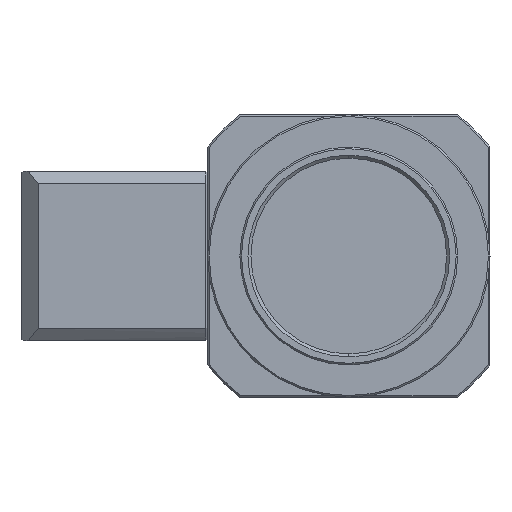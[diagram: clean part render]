
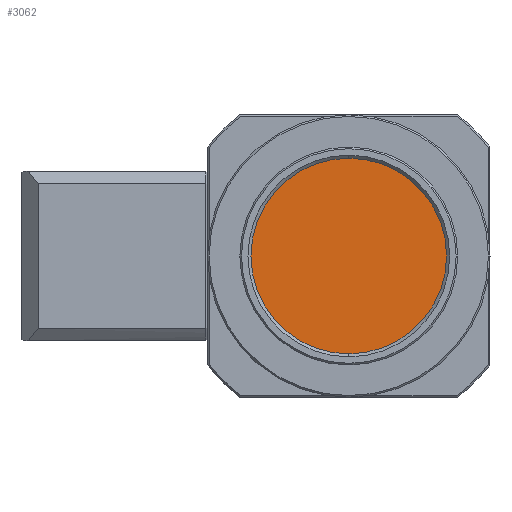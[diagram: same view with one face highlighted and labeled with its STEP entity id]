
A CAD part, left-side view. The second image highlights one B-rep face of the part: STEP entity #3062.
In plain terms, the highlighted planar face has unit normal (-1, 0, 0).
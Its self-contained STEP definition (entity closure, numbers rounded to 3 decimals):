
#75 = DIRECTION ( 'NONE',  ( 0., 0., -1. ) ) ;
#750 = CARTESIAN_POINT ( 'NONE',  ( -160., 0., 12.125 ) ) ;
#761 = VERTEX_POINT ( 'NONE', #4158 ) ;
#886 = FACE_OUTER_BOUND ( 'NONE', #4676, .T. ) ;
#1277 = DIRECTION ( 'NONE',  ( 0., 0., 1. ) ) ;
#2188 = DIRECTION ( 'NONE',  ( -1., 0., 0. ) ) ;
#2928 = ORIENTED_EDGE ( 'NONE', *, *, #5845, .T. ) ;
#3062 = ADVANCED_FACE ( 'NONE', ( #886 ), #3771, .F. ) ;
#3137 = DIRECTION ( 'NONE',  ( 0., 0., 1. ) ) ;
#3343 = CIRCLE ( 'NONE', #6436, 12.125 ) ;
#3358 = CIRCLE ( 'NONE', #6163, 12.125 ) ;
#3771 = PLANE ( 'NONE',  #6714 ) ;
#3903 = ORIENTED_EDGE ( 'NONE', *, *, #6698, .T. ) ;
#4158 = CARTESIAN_POINT ( 'NONE',  ( -160., 0., -12.125 ) ) ;
#4676 = EDGE_LOOP ( 'NONE', ( #2928, #3903 ) ) ;
#4744 = DIRECTION ( 'NONE',  ( 1., 0., 0. ) ) ;
#4768 = CARTESIAN_POINT ( 'NONE',  ( -160., 12.125, 0. ) ) ;
#5668 = DIRECTION ( 'NONE',  ( -1., 0., 0. ) ) ;
#5687 = CARTESIAN_POINT ( 'NONE',  ( -160., 0., 0. ) ) ;
#5845 = EDGE_CURVE ( 'NONE', #6448, #761, #3358, .T. ) ;
#6163 = AXIS2_PLACEMENT_3D ( 'NONE', #6304, #2188, #1277 ) ;
#6304 = CARTESIAN_POINT ( 'NONE',  ( -160., 0., 0. ) ) ;
#6436 = AXIS2_PLACEMENT_3D ( 'NONE', #5687, #5668, #3137 ) ;
#6448 = VERTEX_POINT ( 'NONE', #750 ) ;
#6698 = EDGE_CURVE ( 'NONE', #761, #6448, #3343, .T. ) ;
#6714 = AXIS2_PLACEMENT_3D ( 'NONE', #4768, #4744, #75 ) ;
